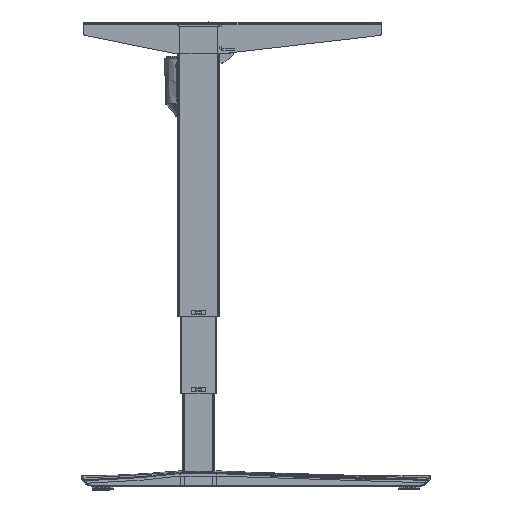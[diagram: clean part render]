
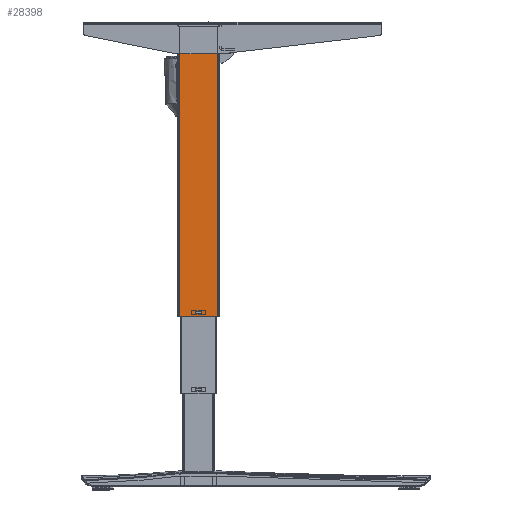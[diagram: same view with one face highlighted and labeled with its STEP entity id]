
A CAD part, left-side view. The second image highlights one B-rep face of the part: STEP entity #28398.
In plain terms, the highlighted planar face has unit normal (-1, 0, 0).
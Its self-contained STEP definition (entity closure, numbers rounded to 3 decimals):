
#124 = DIRECTION ( 'NONE',  ( 0., 0., -1. ) ) ;
#662 = DIRECTION ( 'NONE',  ( 1., 0., 0. ) ) ;
#1897 = CARTESIAN_POINT ( 'NONE',  ( -30., -6., 6. ) ) ;
#2416 = EDGE_CURVE ( 'NONE', #35793, #64841, #83647, .T. ) ;
#3407 = EDGE_CURVE ( 'NONE', #30773, #33854, #81092, .T. ) ;
#7499 = VECTOR ( 'NONE', #79123, 1000. ) ;
#13069 = LINE ( 'NONE', #79868, #78169 ) ;
#13473 = VECTOR ( 'NONE', #99956, 1000. ) ;
#14467 = CARTESIAN_POINT ( 'NONE',  ( -30., 37., 561. ) ) ;
#14590 = CARTESIAN_POINT ( 'NONE',  ( -30., -37., 561. ) ) ;
#15522 = EDGE_LOOP ( 'NONE', ( #53600, #75476, #77091, #74976 ) ) ;
#15896 = LINE ( 'NONE', #14590, #58078 ) ;
#15964 = CARTESIAN_POINT ( 'NONE',  ( -30., -6., 10. ) ) ;
#18082 = VERTEX_POINT ( 'NONE', #24889 ) ;
#20855 = CARTESIAN_POINT ( 'NONE',  ( -30., -37., 556. ) ) ;
#23911 = EDGE_LOOP ( 'NONE', ( #41173, #38826, #95572, #49398 ) ) ;
#24889 = CARTESIAN_POINT ( 'NONE',  ( -30., 6., 6. ) ) ;
#25088 = LINE ( 'NONE', #59535, #34758 ) ;
#25284 = EDGE_CURVE ( 'NONE', #64841, #54529, #39132, .T. ) ;
#27350 = EDGE_CURVE ( 'NONE', #38593, #33854, #15896, .T. ) ;
#27503 = LINE ( 'NONE', #95778, #41900 ) ;
#28398 = ADVANCED_FACE ( 'NONE', ( #45967, #55628 ), #44780, .F. ) ;
#30773 = VERTEX_POINT ( 'NONE', #54261 ) ;
#31214 = CARTESIAN_POINT ( 'NONE',  ( -30., 37., 0. ) ) ;
#32939 = DIRECTION ( 'NONE',  ( 0., -1., 0. ) ) ;
#33854 = VERTEX_POINT ( 'NONE', #81573 ) ;
#34758 = VECTOR ( 'NONE', #44290, 1000. ) ;
#35793 = VERTEX_POINT ( 'NONE', #80752 ) ;
#36386 = LINE ( 'NONE', #47453, #7499 ) ;
#38593 = VERTEX_POINT ( 'NONE', #20855 ) ;
#38826 = ORIENTED_EDGE ( 'NONE', *, *, #2416, .T. ) ;
#39132 = LINE ( 'NONE', #93388, #47525 ) ;
#40729 = DIRECTION ( 'NONE',  ( 0., 0., -1. ) ) ;
#41173 = ORIENTED_EDGE ( 'NONE', *, *, #88466, .T. ) ;
#41900 = VECTOR ( 'NONE', #49617, 1000. ) ;
#44290 = DIRECTION ( 'NONE',  ( 0., 1., 0. ) ) ;
#44557 = DIRECTION ( 'NONE',  ( 0., 0., -1. ) ) ;
#44780 = PLANE ( 'NONE',  #47930 ) ;
#45967 = FACE_BOUND ( 'NONE', #23911, .T. ) ;
#47453 = CARTESIAN_POINT ( 'NONE',  ( -30., 6., 10. ) ) ;
#47525 = VECTOR ( 'NONE', #124, 1000. ) ;
#47930 = AXIS2_PLACEMENT_3D ( 'NONE', #14467, #662, #92618 ) ;
#49398 = ORIENTED_EDGE ( 'NONE', *, *, #58252, .T. ) ;
#49617 = DIRECTION ( 'NONE',  ( 0., -1., 0. ) ) ;
#53600 = ORIENTED_EDGE ( 'NONE', *, *, #27350, .F. ) ;
#54261 = CARTESIAN_POINT ( 'NONE',  ( -30., 37., 0. ) ) ;
#54529 = VERTEX_POINT ( 'NONE', #1897 ) ;
#55628 = FACE_OUTER_BOUND ( 'NONE', #15522, .T. ) ;
#58078 = VECTOR ( 'NONE', #44557, 1000. ) ;
#58252 = EDGE_CURVE ( 'NONE', #54529, #18082, #25088, .T. ) ;
#58548 = EDGE_CURVE ( 'NONE', #84189, #38593, #27503, .T. ) ;
#59535 = CARTESIAN_POINT ( 'NONE',  ( -30., 6., 6. ) ) ;
#63602 = CARTESIAN_POINT ( 'NONE',  ( -30., 6., 10. ) ) ;
#64841 = VERTEX_POINT ( 'NONE', #15964 ) ;
#74976 = ORIENTED_EDGE ( 'NONE', *, *, #3407, .T. ) ;
#75476 = ORIENTED_EDGE ( 'NONE', *, *, #58548, .F. ) ;
#77091 = ORIENTED_EDGE ( 'NONE', *, *, #81881, .T. ) ;
#78169 = VECTOR ( 'NONE', #40729, 1000. ) ;
#79123 = DIRECTION ( 'NONE',  ( 0., 0., 1. ) ) ;
#79868 = CARTESIAN_POINT ( 'NONE',  ( -30., 37., 561. ) ) ;
#80660 = CARTESIAN_POINT ( 'NONE',  ( -30., 37., 556. ) ) ;
#80752 = CARTESIAN_POINT ( 'NONE',  ( -30., 6., 10. ) ) ;
#81092 = LINE ( 'NONE', #31214, #13473 ) ;
#81573 = CARTESIAN_POINT ( 'NONE',  ( -30., -37., 0. ) ) ;
#81881 = EDGE_CURVE ( 'NONE', #84189, #30773, #13069, .T. ) ;
#83647 = LINE ( 'NONE', #63602, #95654 ) ;
#84189 = VERTEX_POINT ( 'NONE', #80660 ) ;
#88466 = EDGE_CURVE ( 'NONE', #18082, #35793, #36386, .T. ) ;
#92618 = DIRECTION ( 'NONE',  ( 0., 1., 0. ) ) ;
#93388 = CARTESIAN_POINT ( 'NONE',  ( -30., -6., 10. ) ) ;
#95572 = ORIENTED_EDGE ( 'NONE', *, *, #25284, .T. ) ;
#95654 = VECTOR ( 'NONE', #32939, 1000. ) ;
#95778 = CARTESIAN_POINT ( 'NONE',  ( -30., 40., 556. ) ) ;
#99956 = DIRECTION ( 'NONE',  ( 0., -1., 0. ) ) ;
